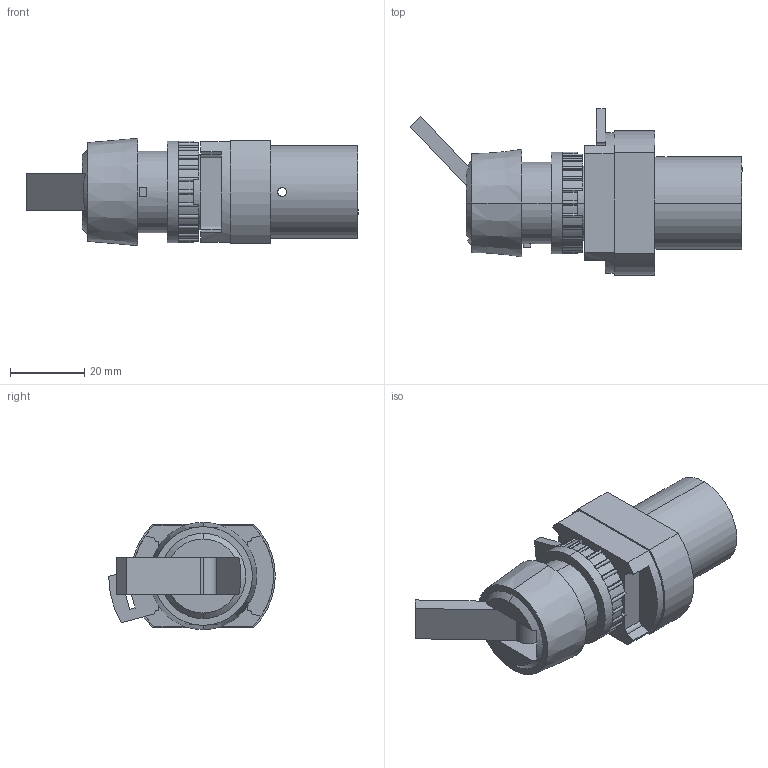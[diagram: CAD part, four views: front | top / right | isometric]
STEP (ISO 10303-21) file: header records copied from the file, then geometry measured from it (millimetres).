
FILE_DESCRIPTION (( 'STEP AP203' ), '1' );
FILE_NAME ('18-T-23-016_T-30-310-Airtec.step', '2006-10-31T13:17:39', ( 'Gustaf Hederström' ), ( 'Cevican AB' ), 'SwSTEP 2.0', 'SolidWorks 2002308', '' );
FILE_SCHEMA (( 'CONFIG_CONTROL_DESIGN' ));
Length unit declared in the file: millimetre
Products named in the file (3): 18-T-23-016_T-30-310-Airtec; T-30-310-Airtec; 18-T-23-016-Airtec
Assembly tree (2 placements, depth 2):
  18-T-23-016_T-30-310-Airtec
    18-T-23-016-Airtec
    T-30-310-Airtec
Bounding box: 89.66 x 45 x 29 mm (x, y, z)
Volume: 43896.1 mm3; surface area: 13364.3 mm2
Topology: 2 solids, 2 shells, 304 faces, 832 edges, 540 vertices
Faces by surface type: cylinder 158, plane 134, cone 10, bspline 2
Entity records: 10134 total; most frequent: DIRECTION 1828, CARTESIAN_POINT 1793, ORIENTED_EDGE 1652, EDGE_CURVE 826, AXIS2_PLACEMENT_3D 705, VERTEX_POINT 540, LINE 418, VECTOR 418
